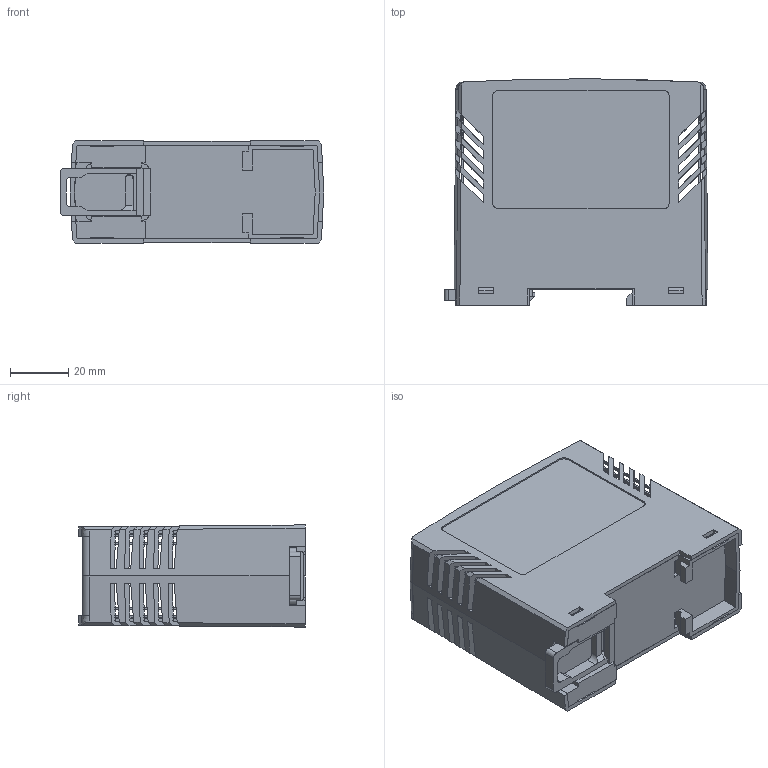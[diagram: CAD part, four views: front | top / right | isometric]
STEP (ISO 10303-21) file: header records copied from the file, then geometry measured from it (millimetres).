
FILE_DESCRIPTION (( 'STEP AP203' ), '1' );
FILE_NAME ('PT132.STEP', '2015-04-14T13:02:10', ( 'admin' ), ( 'Hewlett-Packard Company' ), 'SwSTEP 2.0', 'SolidWorks 2014', '' );
FILE_SCHEMA (( 'CONFIG_CONTROL_DESIGN' ));
Length unit declared in the file: millimetre
Products named in the file (5): PT132
Assembly tree (4 placements, depth 2):
  PT132
    PT132
    PT132
    PT132
    PT132
Bounding box: 90.3 x 77.5 x 35 mm (x, y, z)
Volume: 36722.4 mm3; surface area: 54350.2 mm2
Topology: 6 solids, 6 shells, 638 faces, 2048 edges, 1306 vertices
Faces by surface type: plane 548, cylinder 54, bspline 28, cone 8
Entity records: 24605 total; most frequent: CARTESIAN_POINT 6330, ORIENTED_EDGE 4096, DIRECTION 3204, EDGE_CURVE 2048, VECTOR 1826, LINE 1826, VERTEX_POINT 1306, AXIS2_PLACEMENT_3D 689
